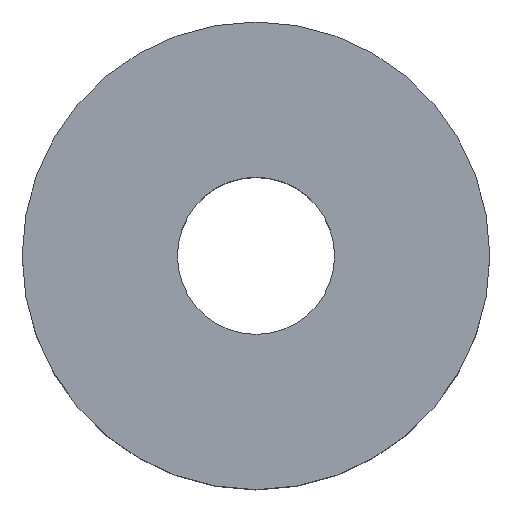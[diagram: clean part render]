
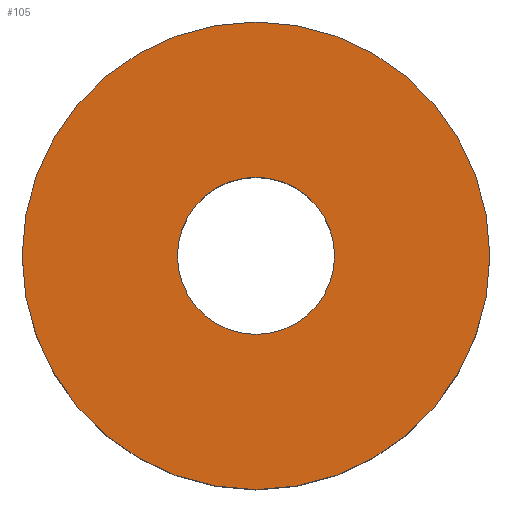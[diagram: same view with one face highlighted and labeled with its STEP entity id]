
A CAD part, top view. The second image highlights one B-rep face of the part: STEP entity #105.
In plain terms, the highlighted planar face has unit normal (0, 0, 1).
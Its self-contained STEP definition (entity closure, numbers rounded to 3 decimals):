
#21 = EDGE_CURVE('',#22,#22,#24,.T.);
#22 = VERTEX_POINT('',#23);
#23 = CARTESIAN_POINT('',(12.5,0.,-13.45));
#24 = SURFACE_CURVE('',#25,(#30,#42),.PCURVE_S1.);
#25 = CIRCLE('',#26,12.5);
#26 = AXIS2_PLACEMENT_3D('',#27,#28,#29);
#27 = CARTESIAN_POINT('',(0.,0.,-13.45));
#28 = DIRECTION('',(0.,0.,1.));
#29 = DIRECTION('',(1.,0.,-0.));
#30 = PCURVE('',#31,#36);
#31 = CYLINDRICAL_SURFACE('',#32,12.5);
#32 = AXIS2_PLACEMENT_3D('',#33,#34,#35);
#33 = CARTESIAN_POINT('',(0.,0.,-24.));
#34 = DIRECTION('',(0.,0.,1.));
#35 = DIRECTION('',(1.,0.,-0.));
#36 = DEFINITIONAL_REPRESENTATION('',(#37),#41);
#37 = LINE('',#38,#39);
#38 = CARTESIAN_POINT('',(0.,10.55));
#39 = VECTOR('',#40,1.);
#40 = DIRECTION('',(1.,0.));
#41 = ( GEOMETRIC_REPRESENTATION_CONTEXT(2) 
PARAMETRIC_REPRESENTATION_CONTEXT() REPRESENTATION_CONTEXT('2D SPACE',''
  ) );
#42 = PCURVE('',#43,#48);
#43 = PLANE('',#44);
#44 = AXIS2_PLACEMENT_3D('',#45,#46,#47);
#45 = CARTESIAN_POINT('',(0.,0.,-13.45));
#46 = DIRECTION('',(0.,0.,1.));
#47 = DIRECTION('',(1.,0.,-0.));
#48 = DEFINITIONAL_REPRESENTATION('',(#49),#53);
#49 = CIRCLE('',#50,12.5);
#50 = AXIS2_PLACEMENT_2D('',#51,#52);
#51 = CARTESIAN_POINT('',(0.,0.));
#52 = DIRECTION('',(1.,0.));
#53 = ( GEOMETRIC_REPRESENTATION_CONTEXT(2) 
PARAMETRIC_REPRESENTATION_CONTEXT() REPRESENTATION_CONTEXT('2D SPACE',''
  ) );
#105 = ADVANCED_FACE('',(#106,#109),#43,.T.);
#106 = FACE_BOUND('',#107,.T.);
#107 = EDGE_LOOP('',(#108));
#108 = ORIENTED_EDGE('',*,*,#21,.T.);
#109 = FACE_BOUND('',#110,.T.);
#110 = EDGE_LOOP('',(#111));
#111 = ORIENTED_EDGE('',*,*,#112,.F.);
#112 = EDGE_CURVE('',#113,#113,#115,.T.);
#113 = VERTEX_POINT('',#114);
#114 = CARTESIAN_POINT('',(4.2,0.,-13.45));
#115 = SURFACE_CURVE('',#116,(#121,#128),.PCURVE_S1.);
#116 = CIRCLE('',#117,4.2);
#117 = AXIS2_PLACEMENT_3D('',#118,#119,#120);
#118 = CARTESIAN_POINT('',(0.,0.,-13.45));
#119 = DIRECTION('',(0.,0.,1.));
#120 = DIRECTION('',(1.,0.,-0.));
#121 = PCURVE('',#43,#122);
#122 = DEFINITIONAL_REPRESENTATION('',(#123),#127);
#123 = CIRCLE('',#124,4.2);
#124 = AXIS2_PLACEMENT_2D('',#125,#126);
#125 = CARTESIAN_POINT('',(0.,0.));
#126 = DIRECTION('',(1.,0.));
#127 = ( GEOMETRIC_REPRESENTATION_CONTEXT(2) 
PARAMETRIC_REPRESENTATION_CONTEXT() REPRESENTATION_CONTEXT('2D SPACE',''
  ) );
#128 = PCURVE('',#129,#134);
#129 = CYLINDRICAL_SURFACE('',#130,4.2);
#130 = AXIS2_PLACEMENT_3D('',#131,#132,#133);
#131 = CARTESIAN_POINT('',(0.,0.,-24.1));
#132 = DIRECTION('',(0.,0.,1.));
#133 = DIRECTION('',(1.,0.,-0.));
#134 = DEFINITIONAL_REPRESENTATION('',(#135),#139);
#135 = LINE('',#136,#137);
#136 = CARTESIAN_POINT('',(0.,10.65));
#137 = VECTOR('',#138,1.);
#138 = DIRECTION('',(1.,0.));
#139 = ( GEOMETRIC_REPRESENTATION_CONTEXT(2) 
PARAMETRIC_REPRESENTATION_CONTEXT() REPRESENTATION_CONTEXT('2D SPACE',''
  ) );
